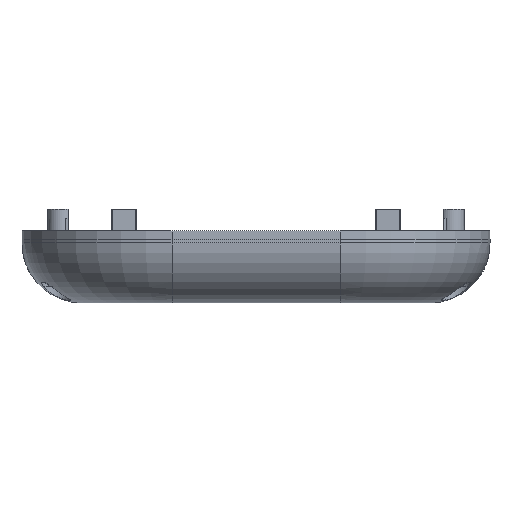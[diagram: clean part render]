
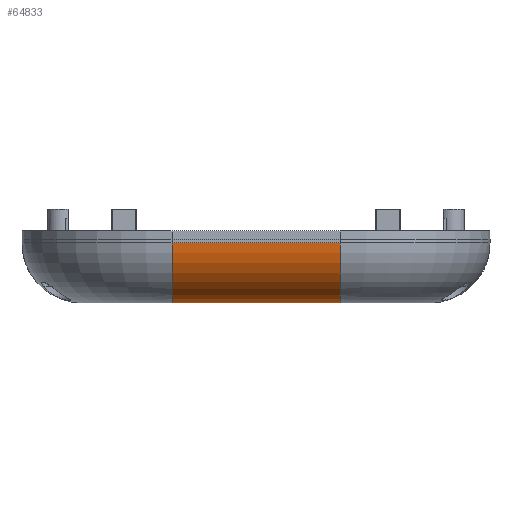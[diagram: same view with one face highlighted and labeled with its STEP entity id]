
A CAD part, front view. The second image highlights one B-rep face of the part: STEP entity #64833.
In plain terms, the highlighted cylindrical face has radius 10 mm (diameter 20 mm), a partial arc.
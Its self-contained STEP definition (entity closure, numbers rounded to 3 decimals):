
#45357 = PLANE('',#45358);
#45358 = AXIS2_PLACEMENT_3D('',#45359,#45360,#45361);
#45359 = CARTESIAN_POINT('',(0.,0.,-24.));
#45360 = DIRECTION('',(0.,0.,-1.));
#45361 = DIRECTION('',(-1.,0.,0.));
#51375 = TOROIDAL_SURFACE('',#51376,15.,10.);
#51376 = AXIS2_PLACEMENT_3D('',#51377,#51378,#51379);
#51377 = CARTESIAN_POINT('',(14.,-50.,-14.));
#51378 = DIRECTION('',(0.,0.,-1.));
#51379 = DIRECTION('',(-1.,0.,0.));
#52116 = TOROIDAL_SURFACE('',#52117,15.,10.);
#52117 = AXIS2_PLACEMENT_3D('',#52118,#52119,#52120);
#52118 = CARTESIAN_POINT('',(-14.,-50.,-14.));
#52119 = DIRECTION('',(0.,0.,-1.));
#52120 = DIRECTION('',(-1.,0.,0.));
#59126 = VERTEX_POINT('',#59127);
#59127 = CARTESIAN_POINT('',(14.,-65.,-24.));
#59153 = EDGE_CURVE('',#59154,#59126,#59156,.T.);
#59154 = VERTEX_POINT('',#59155);
#59155 = CARTESIAN_POINT('',(-14.,-65.,-24.));
#59156 = SURFACE_CURVE('',#59157,(#59161,#59168),.PCURVE_S1.);
#59157 = LINE('',#59158,#59159);
#59158 = CARTESIAN_POINT('',(7.,-65.,-24.));
#59159 = VECTOR('',#59160,1.);
#59160 = DIRECTION('',(1.,0.,0.));
#59161 = PCURVE('',#45357,#59162);
#59162 = DEFINITIONAL_REPRESENTATION('',(#59163),#59167);
#59163 = LINE('',#59164,#59165);
#59164 = CARTESIAN_POINT('',(-7.,-65.));
#59165 = VECTOR('',#59166,1.);
#59166 = DIRECTION('',(-1.,0.));
#59167 = ( GEOMETRIC_REPRESENTATION_CONTEXT(2) 
PARAMETRIC_REPRESENTATION_CONTEXT() REPRESENTATION_CONTEXT('2D SPACE',''
  ) );
#59168 = PCURVE('',#59169,#59174);
#59169 = CYLINDRICAL_SURFACE('',#59170,10.);
#59170 = AXIS2_PLACEMENT_3D('',#59171,#59172,#59173);
#59171 = CARTESIAN_POINT('',(7.,-65.,-14.));
#59172 = DIRECTION('',(-1.,0.,0.));
#59173 = DIRECTION('',(-0.,-0.707,-0.707));
#59174 = DEFINITIONAL_REPRESENTATION('',(#59175),#59179);
#59175 = LINE('',#59176,#59177);
#59176 = CARTESIAN_POINT('',(-0.785,0.));
#59177 = VECTOR('',#59178,1.);
#59178 = DIRECTION('',(0.,-1.));
#59179 = ( GEOMETRIC_REPRESENTATION_CONTEXT(2) 
PARAMETRIC_REPRESENTATION_CONTEXT() REPRESENTATION_CONTEXT('2D SPACE',''
  ) );
#63220 = EDGE_CURVE('',#63221,#59126,#63223,.T.);
#63221 = VERTEX_POINT('',#63222);
#63222 = CARTESIAN_POINT('',(14.,-75.,-14.));
#63223 = SURFACE_CURVE('',#63224,(#63229,#63236),.PCURVE_S1.);
#63224 = CIRCLE('',#63225,10.);
#63225 = AXIS2_PLACEMENT_3D('',#63226,#63227,#63228);
#63226 = CARTESIAN_POINT('',(14.,-65.,-14.));
#63227 = DIRECTION('',(1.,0.,0.));
#63228 = DIRECTION('',(0.,-1.,0.));
#63229 = PCURVE('',#51375,#63230);
#63230 = DEFINITIONAL_REPRESENTATION('',(#63231),#63235);
#63231 = LINE('',#63232,#63233);
#63232 = CARTESIAN_POINT('',(4.712,0.));
#63233 = VECTOR('',#63234,1.);
#63234 = DIRECTION('',(0.,1.));
#63235 = ( GEOMETRIC_REPRESENTATION_CONTEXT(2) 
PARAMETRIC_REPRESENTATION_CONTEXT() REPRESENTATION_CONTEXT('2D SPACE',''
  ) );
#63236 = PCURVE('',#59169,#63237);
#63237 = DEFINITIONAL_REPRESENTATION('',(#63238),#63242);
#63238 = LINE('',#63239,#63240);
#63239 = CARTESIAN_POINT('',(0.785,-7.));
#63240 = VECTOR('',#63241,1.);
#63241 = DIRECTION('',(-1.,0.));
#63242 = ( GEOMETRIC_REPRESENTATION_CONTEXT(2) 
PARAMETRIC_REPRESENTATION_CONTEXT() REPRESENTATION_CONTEXT('2D SPACE',''
  ) );
#63705 = EDGE_CURVE('',#63706,#59154,#63708,.T.);
#63706 = VERTEX_POINT('',#63707);
#63707 = CARTESIAN_POINT('',(-14.,-75.,-14.));
#63708 = SURFACE_CURVE('',#63709,(#63714,#63721),.PCURVE_S1.);
#63709 = CIRCLE('',#63710,10.);
#63710 = AXIS2_PLACEMENT_3D('',#63711,#63712,#63713);
#63711 = CARTESIAN_POINT('',(-14.,-65.,-14.));
#63712 = DIRECTION('',(1.,0.,0.));
#63713 = DIRECTION('',(0.,-1.,0.));
#63714 = PCURVE('',#52116,#63715);
#63715 = DEFINITIONAL_REPRESENTATION('',(#63716),#63720);
#63716 = LINE('',#63717,#63718);
#63717 = CARTESIAN_POINT('',(4.712,0.));
#63718 = VECTOR('',#63719,1.);
#63719 = DIRECTION('',(0.,1.));
#63720 = ( GEOMETRIC_REPRESENTATION_CONTEXT(2) 
PARAMETRIC_REPRESENTATION_CONTEXT() REPRESENTATION_CONTEXT('2D SPACE',''
  ) );
#63721 = PCURVE('',#59169,#63722);
#63722 = DEFINITIONAL_REPRESENTATION('',(#63723),#63727);
#63723 = LINE('',#63724,#63725);
#63724 = CARTESIAN_POINT('',(0.785,21.));
#63725 = VECTOR('',#63726,1.);
#63726 = DIRECTION('',(-1.,0.));
#63727 = ( GEOMETRIC_REPRESENTATION_CONTEXT(2) 
PARAMETRIC_REPRESENTATION_CONTEXT() REPRESENTATION_CONTEXT('2D SPACE',''
  ) );
#64421 = PLANE('',#64422);
#64422 = AXIS2_PLACEMENT_3D('',#64423,#64424,#64425);
#64423 = CARTESIAN_POINT('',(14.,-75.,-12.));
#64424 = DIRECTION('',(0.,-1.,0.));
#64425 = DIRECTION('',(-1.,0.,0.));
#64833 = ADVANCED_FACE('',(#64834),#59169,.T.);
#64834 = FACE_BOUND('',#64835,.T.);
#64835 = EDGE_LOOP('',(#64836,#64837,#64838,#64839));
#64836 = ORIENTED_EDGE('',*,*,#63705,.T.);
#64837 = ORIENTED_EDGE('',*,*,#59153,.T.);
#64838 = ORIENTED_EDGE('',*,*,#63220,.F.);
#64839 = ORIENTED_EDGE('',*,*,#64840,.T.);
#64840 = EDGE_CURVE('',#63221,#63706,#64841,.T.);
#64841 = SURFACE_CURVE('',#64842,(#64846,#64853),.PCURVE_S1.);
#64842 = LINE('',#64843,#64844);
#64843 = CARTESIAN_POINT('',(7.,-75.,-14.));
#64844 = VECTOR('',#64845,1.);
#64845 = DIRECTION('',(-1.,0.,0.));
#64846 = PCURVE('',#59169,#64847);
#64847 = DEFINITIONAL_REPRESENTATION('',(#64848),#64852);
#64848 = LINE('',#64849,#64850);
#64849 = CARTESIAN_POINT('',(0.785,0.));
#64850 = VECTOR('',#64851,1.);
#64851 = DIRECTION('',(0.,1.));
#64852 = ( GEOMETRIC_REPRESENTATION_CONTEXT(2) 
PARAMETRIC_REPRESENTATION_CONTEXT() REPRESENTATION_CONTEXT('2D SPACE',''
  ) );
#64853 = PCURVE('',#64421,#64854);
#64854 = DEFINITIONAL_REPRESENTATION('',(#64855),#64859);
#64855 = LINE('',#64856,#64857);
#64856 = CARTESIAN_POINT('',(7.,2.));
#64857 = VECTOR('',#64858,1.);
#64858 = DIRECTION('',(1.,0.));
#64859 = ( GEOMETRIC_REPRESENTATION_CONTEXT(2) 
PARAMETRIC_REPRESENTATION_CONTEXT() REPRESENTATION_CONTEXT('2D SPACE',''
  ) );
